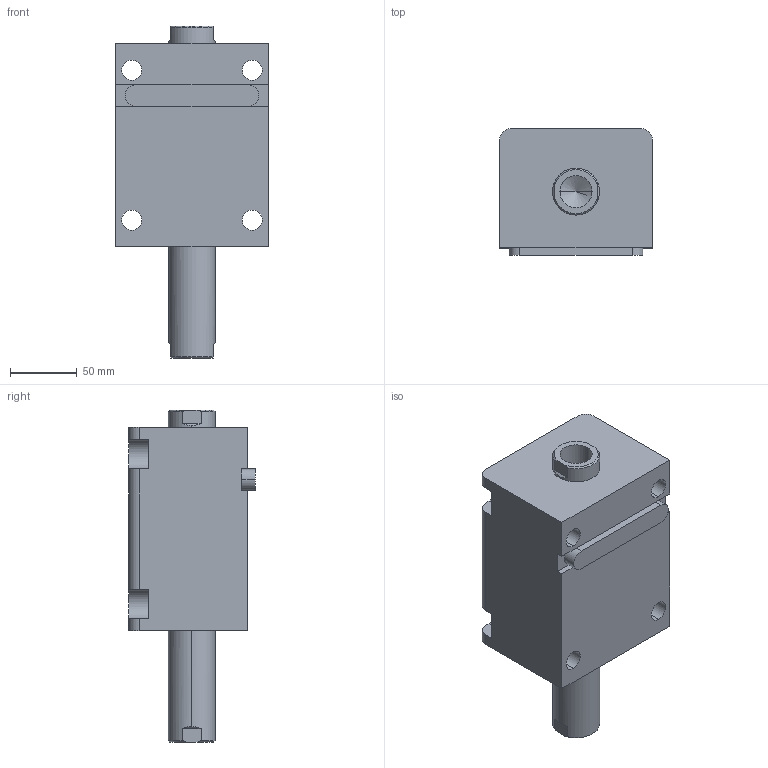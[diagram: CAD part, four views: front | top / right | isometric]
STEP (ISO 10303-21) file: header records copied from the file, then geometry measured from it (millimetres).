
FILE_DESCRIPTION (( 'STEP AP203' ), '1' );
FILE_NAME ('HTB-LW63-70N.STEP', '2019-10-09T08:28:06', ( '微软用户' ), ( '微软中国' ), 'SwSTEP 2.0', 'SolidWorks 2012', '' );
FILE_SCHEMA (( 'CONFIG_CONTROL_DESIGN' ));
Length unit declared in the file: millimetre
Products named in the file (4): HTB-LW63-70N; HTB-LA63-瑩; HTB-LW63-70N活塞杆; HTB-LW63-70掛极
Assembly tree (3 placements, depth 2):
  HTB-LW63-70N
    HTB-LW63-70掛极
    HTB-LW63-70N活塞杆
    HTB-LA63-瑩
Bounding box: 114 x 94.5 x 248 mm (x, y, z)
Volume: 1368478.9 mm3; surface area: 170616 mm2
Topology: 3 solids, 3 shells, 101 faces, 253 edges, 164 vertices
Faces by surface type: plane 44, cylinder 41, cone 12, torus 4
Entity records: 3467 total; most frequent: CARTESIAN_POINT 576, DIRECTION 549, ORIENTED_EDGE 498, EDGE_CURVE 249, AXIS2_PLACEMENT_3D 209, VERTEX_POINT 164, VECTOR 131, LINE 131
